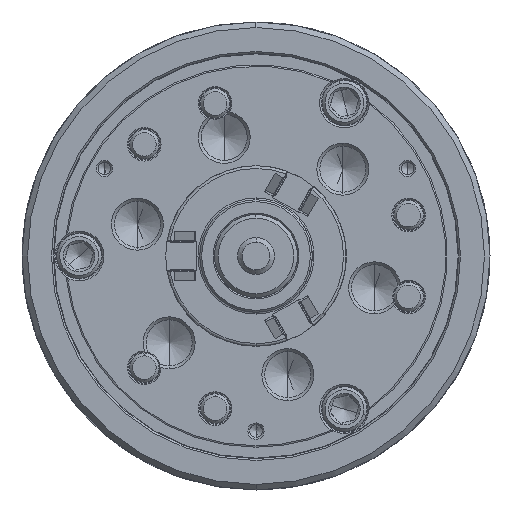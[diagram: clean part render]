
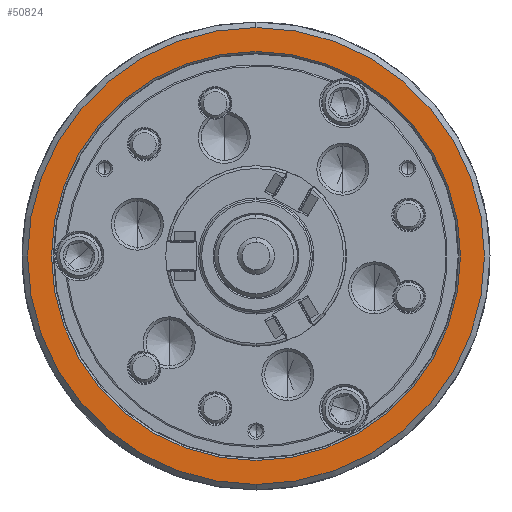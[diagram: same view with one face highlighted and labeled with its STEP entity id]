
A CAD part, left-side view. The second image highlights one B-rep face of the part: STEP entity #50824.
In plain terms, the highlighted planar face has unit normal (-1, 0, 0).
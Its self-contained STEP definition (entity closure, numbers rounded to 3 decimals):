
#986 = EDGE_CURVE ( 'NONE', #89250, #105953, #47656, .T. ) ;
#1707 = AXIS2_PLACEMENT_3D ( 'NONE', #2463, #93413, #39432 ) ;
#2463 = CARTESIAN_POINT ( 'NONE',  ( -89., 0., 0. ) ) ;
#4545 = DIRECTION ( 'NONE',  ( 1., 0., 0. ) ) ;
#11462 = EDGE_CURVE ( 'NONE', #105953, #89250, #71250, .T. ) ;
#13291 = DIRECTION ( 'NONE',  ( 0., 0., -1. ) ) ;
#19071 = AXIS2_PLACEMENT_3D ( 'NONE', #81583, #119124, #45770 ) ;
#29582 = EDGE_LOOP ( 'NONE', ( #40530, #92607 ) ) ;
#35381 = EDGE_LOOP ( 'NONE', ( #91368, #66225 ) ) ;
#36665 = CARTESIAN_POINT ( 'NONE',  ( -89., 0., 0. ) ) ;
#36812 = VERTEX_POINT ( 'NONE', #44062 ) ;
#39432 = DIRECTION ( 'NONE',  ( 0., 0., -1. ) ) ;
#39707 = CARTESIAN_POINT ( 'NONE',  ( -89., 0., 0. ) ) ;
#40530 = ORIENTED_EDGE ( 'NONE', *, *, #11462, .T. ) ;
#44062 = CARTESIAN_POINT ( 'NONE',  ( -89., 0., 124. ) ) ;
#45145 = DIRECTION ( 'NONE',  ( 0., 0., -1. ) ) ;
#45770 = DIRECTION ( 'NONE',  ( 0., 0., -1. ) ) ;
#47656 = CIRCLE ( 'NONE', #92150, 111. ) ;
#50824 = ADVANCED_FACE ( 'NONE', ( #62204, #82171 ), #73671, .F. ) ;
#51635 = AXIS2_PLACEMENT_3D ( 'NONE', #36665, #80947, #45145 ) ;
#52001 = CIRCLE ( 'NONE', #1707, 124. ) ;
#53633 = EDGE_CURVE ( 'NONE', #36812, #63303, #52001, .T. ) ;
#55788 = AXIS2_PLACEMENT_3D ( 'NONE', #39707, #4545, #115418 ) ;
#59554 = EDGE_CURVE ( 'NONE', #63303, #36812, #92276, .T. ) ;
#59956 = DIRECTION ( 'NONE',  ( 1., 0., 0. ) ) ;
#62204 = FACE_OUTER_BOUND ( 'NONE', #35381, .T. ) ;
#63303 = VERTEX_POINT ( 'NONE', #65883 ) ;
#65883 = CARTESIAN_POINT ( 'NONE',  ( -89., 0., -124. ) ) ;
#66225 = ORIENTED_EDGE ( 'NONE', *, *, #53633, .F. ) ;
#71250 = CIRCLE ( 'NONE', #55788, 111. ) ;
#73671 = PLANE ( 'NONE',  #19071 ) ;
#78417 = CARTESIAN_POINT ( 'NONE',  ( -89., 0., 111. ) ) ;
#80947 = DIRECTION ( 'NONE',  ( 1., 0., 0. ) ) ;
#81583 = CARTESIAN_POINT ( 'NONE',  ( -89., -124., 0. ) ) ;
#82171 = FACE_BOUND ( 'NONE', #29582, .T. ) ;
#89250 = VERTEX_POINT ( 'NONE', #89648 ) ;
#89648 = CARTESIAN_POINT ( 'NONE',  ( -89., 0., -111. ) ) ;
#91368 = ORIENTED_EDGE ( 'NONE', *, *, #59554, .F. ) ;
#92150 = AXIS2_PLACEMENT_3D ( 'NONE', #96313, #59956, #13291 ) ;
#92276 = CIRCLE ( 'NONE', #51635, 124. ) ;
#92607 = ORIENTED_EDGE ( 'NONE', *, *, #986, .T. ) ;
#93413 = DIRECTION ( 'NONE',  ( 1., 0., 0. ) ) ;
#96313 = CARTESIAN_POINT ( 'NONE',  ( -89., 0., 0. ) ) ;
#105953 = VERTEX_POINT ( 'NONE', #78417 ) ;
#115418 = DIRECTION ( 'NONE',  ( 0., 0., -1. ) ) ;
#119124 = DIRECTION ( 'NONE',  ( 1., 0., 0. ) ) ;
